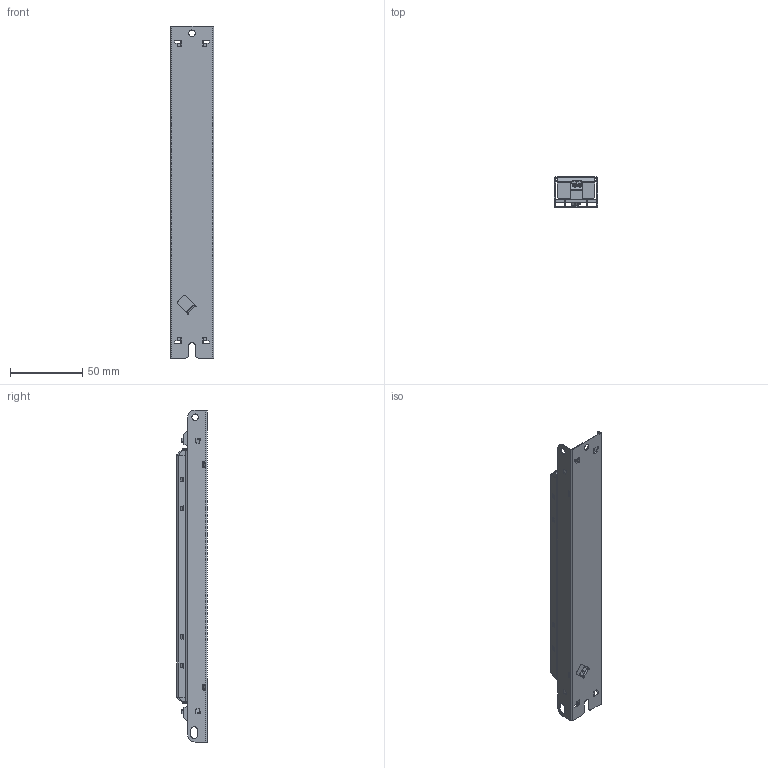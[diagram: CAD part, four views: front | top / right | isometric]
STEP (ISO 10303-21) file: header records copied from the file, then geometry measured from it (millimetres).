
FILE_DESCRIPTION (( 'STEP AP203' ), '1' );
FILE_NAME ('LL1x38-CC-350.STEP', '2017-12-05T08:16:52', ( '' ), ( '' ), 'SwSTEP 2.0', 'SolidWorks 2014', '' );
FILE_SCHEMA (( 'CONFIG_CONTROL_DESIGN' ));
Length unit declared in the file: millimetre
Products named in the file (3): LL1x10-42-CC-350-700; 2n; LL1x38-CC-350
Assembly tree (2 placements, depth 2):
  LL1x38-CC-350
    LL1x10-42-CC-350-700
    2n
Bounding box: 30 x 20.88 x 230 mm (x, y, z)
Volume: 22801.5 mm3; surface area: 59188.5 mm2
Topology: 5 solids, 5 shells, 997 faces, 2609 edges, 1637 vertices
Faces by surface type: plane 510, cylinder 344, bspline 132, cone 11
Entity records: 41370 total; most frequent: CARTESIAN_POINT 17624, ORIENTED_EDGE 5218, DIRECTION 4362, EDGE_CURVE 2609, VECTOR 1692, LINE 1692, VERTEX_POINT 1637, AXIS2_PLACEMENT_3D 1335
